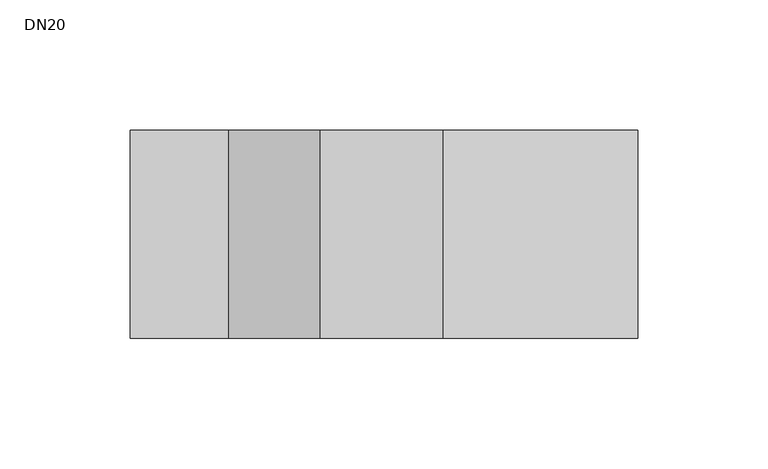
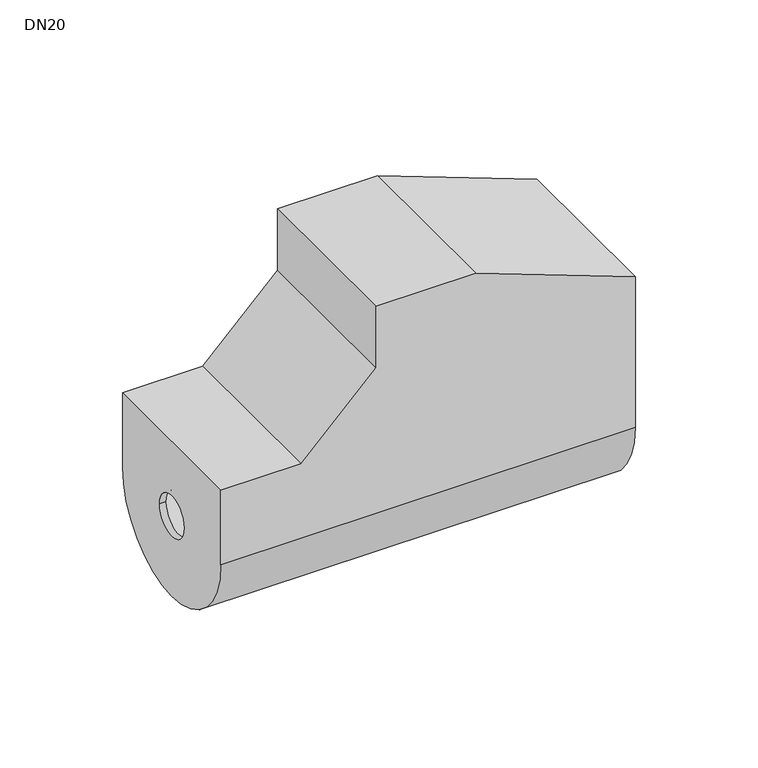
"""IFC4 building model written with IfcOpenShell, lengths in millimetres: valve geometry, 400_5-_KOMF_Isolatieschaal_DN20-50 : DN20."""

from ifc_helpers import new_model, si_unit, frame, origin, place, context, project, spatial, polyline, circle_curve, source, transform, mapped, element, save
from ifc_brep_helpers import plane_surface, cylinder_surface, revolved_surface, advanced_brep


def dn20_0d739131(model_context):
    return source(origin(), model_context, "Body", "AdvancedBrep", [
        advanced_brep(
        [(0.0, 40.0, 103.0), (47.0, 40.0, 103.0), (122.0, 40.0, 74.9711306), (122.0, 40.0, 0.0), (-73.0, 40.0, 0.0), (-73.0, 40.0, 37.0), (-35.3553391, 40.0, 37.0), (0.0, 40.0, 72.3553391), (122.0, -40.0, 74.9711306), (47.0, -40.0, 103.0), (0.0, -40.0, 103.0), (0.0, -40.0, 72.3553391), (-35.3553391, -40.0, 37.0), (-73.0, -40.0, 37.0), (-73.0, -40.0, 0.0), (122.0, -40.0, 0.0), (-73.0, 0.0, -40.0), (-73.0, -9.9999998, -4e-07), (-73.0, 10.0000002, -4e-07), (122.0, 0.0, -40.0), (122.0, 10.0000002, -4e-07), (122.0, -9.9999998, -4e-07), (-70.0, -9.9999998, -4e-07), (-70.0, 10.0000002, -4e-07), (119.0, 10.0000002, -4e-07), (119.0, -9.9999998, -4e-07), (119.0, 37.0, 0.0), (119.0, -37.0, 0.0), (119.0, -37.0, 72.6843036), (119.0, 37.0, 72.6843036), (-70.0, -37.0, 34.0), (-70.0, -37.0, 0.0), (-70.0, 37.0, 0.0), (-70.0, 37.0, 34.0), (-34.1126984, -37.0, 34.0), (3.0, -37.0, 71.1126984), (3.0, -37.0, 100.0), (46.5953113, -37.0, 100.0), (46.5953113, 37.0, 100.0), (3.0, 37.0, 100.0), (3.0, 37.0, 71.1126984), (-34.1126984, 37.0, 34.0)],
        [
            (0, 1),
            (1, 2),
            (2, 3),
            (3, 4),
            (4, 5),
            (5, 6),
            (6, 7),
            (7, 0),
            (8, 9),
            (9, 10),
            (10, 11),
            (11, 12),
            (12, 13),
            (13, 14),
            (14, 15),
            (15, 8),
            (13, 5),
            (4, 16, circle_curve(frame((-73.0, 0.0, 0.0), z_axis=(-1.0, 0.0, 0.0), x_axis=(0.0, 1.0, 0.0)), 40.0)),
            (16, 14, circle_curve(frame((-73.0, 0.0, 0.0), z_axis=(-1.0, 0.0, 0.0), x_axis=(0.0, 1.0, 0.0)), 40.0)),
            (17, 18, circle_curve(frame((-73.0, 2e-07, -4e-07), z_axis=(1.0, 0.0, 0.0), x_axis=(0.0, 1.0, 0.0)), 10.0)),
            (18, 17, circle_curve(frame((-73.0, 2e-07, -4e-07), z_axis=(1.0, 0.0, 0.0), x_axis=(0.0, 1.0, 0.0)), 10.0)),
            (12, 6),
            (10, 0),
            (7, 11),
            (9, 1),
            (8, 2),
            (15, 19, circle_curve(frame((122.0, 0.0, 0.0), z_axis=(1.0, 0.0, 0.0), x_axis=(0.0, 1.0, 0.0)), 40.0)),
            (19, 3, circle_curve(frame((122.0, 0.0, 0.0), z_axis=(1.0, 0.0, 0.0), x_axis=(0.0, 1.0, 0.0)), 40.0)),
            (20, 21, circle_curve(frame((122.0, 2e-07, -4e-07), z_axis=(-1.0, 0.0, 0.0), x_axis=(0.0, 1.0, 0.0)), 10.0)),
            (21, 20, circle_curve(frame((122.0, 2e-07, -4e-07), z_axis=(-1.0, 0.0, 0.0), x_axis=(0.0, 1.0, 0.0)), 10.0)),
            (17, 22),
            (22, 23, circle_curve(frame((-70.0, 2e-07, -4e-07), z_axis=(1.0, 0.0, 0.0), x_axis=(0.0, 1.0, 0.0)), 10.0)),
            (23, 18),
            (20, 24),
            (24, 25, circle_curve(frame((119.0, 2e-07, -4e-07), z_axis=(-1.0, 0.0, 0.0), x_axis=(0.0, 1.0, 0.0)), 10.0)),
            (25, 21),
            (23, 22, circle_curve(frame((-70.0, 2e-07, -4e-07), z_axis=(1.0, 0.0, 0.0), x_axis=(0.0, 1.0, 0.0)), 10.0)),
            (25, 24, circle_curve(frame((119.0, 2e-07, -4e-07), z_axis=(-1.0, 0.0, 0.0), x_axis=(0.0, 1.0, 0.0)), 10.0)),
            (26, 27, circle_curve(frame((119.0, 0.0, 0.0), z_axis=(-1.0, 0.0, 0.0), x_axis=(0.0, 1.0, 0.0)), 37.0)),
            (27, 28),
            (28, 29),
            (29, 26),
            (30, 31),
            (31, 32, circle_curve(frame((-70.0, 0.0, 0.0), z_axis=(1.0, 0.0, 0.0), x_axis=(0.0, 1.0, 0.0)), 37.0)),
            (32, 33),
            (33, 30),
            (30, 34),
            (34, 35),
            (35, 36),
            (36, 37),
            (37, 28),
            (27, 31),
            (26, 32),
            (29, 38),
            (38, 39),
            (39, 40),
            (40, 41),
            (41, 33),
            (41, 34),
            (39, 36),
            (35, 40),
            (37, 38),
        ],
        [
            plane_surface(frame((-73.0, 40.0, -40.0), z_axis=(0.0, 1.0, 0.0), x_axis=(0.0, 0.0, 1.0))),
            plane_surface(frame((-73.0, -40.0, -40.0), z_axis=(0.0, -1.0, 0.0), x_axis=(0.0, 0.0, -1.0))),
            plane_surface(frame((-73.0, 40.0, -40.0), z_axis=(-1.0, 0.0, 0.0), x_axis=(0.0, -1.0, 0.0))),
            plane_surface(frame((-73.0, 40.0, 37.0), z_axis=(0.0, 0.0, 1.0), x_axis=(0.0, -1.0, 0.0))),
            plane_surface(frame((0.0, 40.0, 37.0), z_axis=(-1.0, 0.0, 0.0), x_axis=(0.0, -1.0, 0.0))),
            plane_surface(frame((0.0, 40.0, 103.0), z_axis=(0.0, 0.0, 1.0), x_axis=(0.0, -1.0, 0.0))),
            plane_surface(frame((47.0, 40.0, 103.0), z_axis=(0.350070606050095, 0.0, 0.9367233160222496), x_axis=(0.0, -1.0, 0.0))),
            plane_surface(frame((122.0, 40.0, 74.9711306), z_axis=(1.0, 0.0, 0.0), x_axis=(0.0, -1.0, 0.0))),
            revolved_surface(polyline([(-70.0, 10.0000002, -4e-07), (-73.0, 10.0000002, -4e-07)]), (-73.0, 2e-07, -4e-07), (1.0, 0.0, 0.0)),
            revolved_surface(polyline([(122.0, 10.0000002, -4e-07), (119.0, 10.0000002, -4e-07)]), (-73.0, 2e-07, -4e-07), (1.0, 0.0, 0.0)),
            plane_surface(frame((0.0, -40.0, 72.3553391), z_axis=(-0.7071067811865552, 0.0, 0.7071067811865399), x_axis=(0.0, 1.0, 0.0))),
            cylinder_surface(frame((-73.0, 0.0, 0.0), z_axis=(-1.0, 0.0, 0.0), x_axis=(0.0, 1.0, 0.0)), 40.0),
            plane_surface(frame((119.0, -37.0, 34.0), z_axis=(-1.0, 0.0, 0.0), x_axis=(0.0, 0.0, -1.0))),
            plane_surface(frame((-70.0, -37.0, 34.0), z_axis=(1.0, 0.0, 0.0), x_axis=(0.0, 0.0, 1.0))),
            plane_surface(frame((119.0, -37.0, 34.0), z_axis=(0.0, 1.0, 0.0), x_axis=(-1.0, 0.0, 0.0))),
            revolved_surface(polyline([(119.0, 37.0, 0.0), (-70.0, 37.0, 0.0)]), (-70.0, 0.0, 0.0), (1.0, 0.0, 0.0)),
            plane_surface(frame((119.0, 37.0, 0.0), z_axis=(0.0, -1.0, 0.0), x_axis=(-1.0, 0.0, 0.0))),
            plane_surface(frame((119.0, 37.0, 34.0), z_axis=(0.0, 0.0, -1.0), x_axis=(-1.0, 0.0, 0.0))),
            plane_surface(frame((3.0, -37.0, 100.0), z_axis=(1.0, 0.0, 0.0), x_axis=(0.0, 1.0, 0.0))),
            plane_surface(frame((119.0, -37.0, 72.6843036), z_axis=(-0.35298002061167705, 0.0, -0.9356308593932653), x_axis=(0.0, 1.0, 0.0))),
            plane_surface(frame((46.5953113, -37.0, 100.0), z_axis=(0.0, 0.0, -1.0), x_axis=(0.0, 1.0, 0.0))),
            plane_surface(frame((3.0, -37.0, 71.1126984), z_axis=(0.7071067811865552, 0.0, -0.7071067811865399), x_axis=(0.0, 1.0, 0.0))),
        ],
        [
            (0, [[1, 2, 3, 4, 5, 6, 7, 8]]),
            (1, [[9, 10, 11, 12, 13, 14, 15, 16]]),
            (2, [[17, -5, 18, 19, -14], [20, 21]]),
            (3, [[-17, -13, 22, -6]]),
            (4, [[23, -8, 24, -11]]),
            (5, [[-1, -23, -10, 25]]),
            (6, [[-2, -25, -9, 26]]),
            (7, [[-26, -16, 27, 28, -3], [29, 30]]),
            (8, [[-20, 31, 32, 33]]),
            (9, [[-29, 34, 35, 36]]),
            (8, [[-21, -33, 37, -31]]),
            (9, [[-30, -36, 38, -34]]),
            (10, [[-12, -24, -7, -22]]),
            (11, [[-4, -28, -27, -15, -19, -18]]),
            (12, [[39, 40, 41, 42], [-35, -38]]),
            (13, [[43, 44, 45, 46], [-32, -37]]),
            (14, [[-43, 47, 48, 49, 50, 51, -40, 52]]),
            (15, [[-39, 53, -44, -52]]),
            (16, [[-45, -53, -42, 54, 55, 56, 57, 58]]),
            (17, [[-46, -58, 59, -47]]),
            (18, [[60, -49, 61, -56]]),
            (19, [[-51, 62, -54, -41]]),
            (20, [[-50, -60, -55, -62]]),
            (21, [[-48, -59, -57, -61]]),
        ],
    ),
    ])


if __name__ == "__main__":
    model = new_model("IFC4")
    model_context = context("Model", 3, world=origin())
    ifc_project = project(units=[si_unit("LENGTHUNIT", "METRE", prefix="MILLI")], contexts=[model_context])
    site = spatial("IfcSite", under=ifc_project)
    building = spatial("IfcBuilding", under=site)
    placement = place(None, origin())
    dn20_shape = dn20_0d739131(model_context)
    element("IfcValve", 1, ObjectType="400_5-_KOMF_Isolatieschaal_DN20-50 : DN20", at=placement, inside=building, context=model_context, shape_type="MappedRepresentation", body=[
        mapped(dn20_shape, transform((0.0, 0.0, 0.0), x_axis=(1.0, 0.0, 0.0), y_axis=(0.0, 1.0, 0.0), z_axis=(0.0, 0.0, 1.0))),
    ])
    save(model, "model.ifc")
